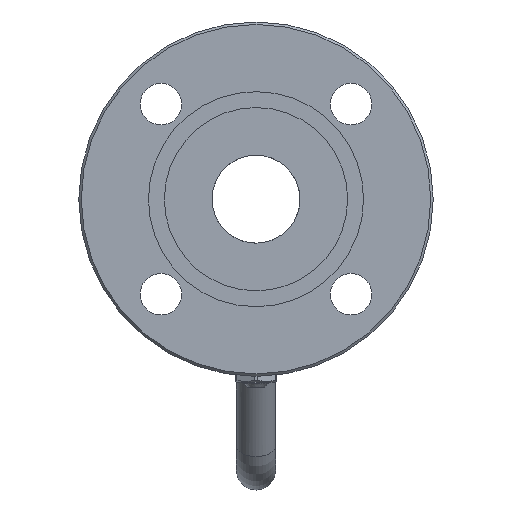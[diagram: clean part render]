
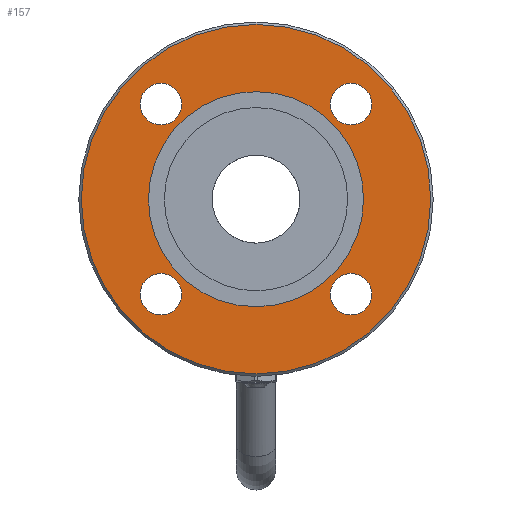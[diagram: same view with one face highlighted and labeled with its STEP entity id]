
A CAD part, left-side view. The second image highlights one B-rep face of the part: STEP entity #157.
In plain terms, the highlighted planar face has unit normal (-1, 0, 0).
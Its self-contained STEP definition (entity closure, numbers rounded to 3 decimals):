
#157=ADVANCED_FACE('',(#1347,#1349,#1351,#1353,#1355,#1357),#1359,.T.);
#1347=FACE_BOUND('',#1348,.T.);
#1348=EDGE_LOOP('',(#2261));
#1349=FACE_BOUND('',#1350,.T.);
#1350=EDGE_LOOP('',(#2262));
#1351=FACE_BOUND('',#1352,.T.);
#1352=EDGE_LOOP('',(#2263));
#1353=FACE_BOUND('',#1354,.T.);
#1354=EDGE_LOOP('',(#2264));
#1355=FACE_BOUND('',#1356,.T.);
#1356=EDGE_LOOP('',(#2265));
#1357=FACE_OUTER_BOUND('',#1358,.T.);
#1358=EDGE_LOOP('',(#2266));
#1359=PLANE('',#1360);
#1360=AXIS2_PLACEMENT_3D('',#1361,#1362,#1363);
#1361=CARTESIAN_POINT('',(-69.,0.,0.));
#1362=DIRECTION('',(-1.,0.,0.));
#1363=DIRECTION('',(0.,-1.,0.));
#2261=ORIENTED_EDGE('',*,*,#3301,.T.);
#2262=ORIENTED_EDGE('',*,*,#3302,.T.);
#2263=ORIENTED_EDGE('',*,*,#3304,.T.);
#2264=ORIENTED_EDGE('',*,*,#3306,.T.);
#2265=ORIENTED_EDGE('',*,*,#3317,.T.);
#2266=ORIENTED_EDGE('',*,*,#3318,.T.);
#3301=EDGE_CURVE('',#3644,#3644,#3646,.T.);
#3302=EDGE_CURVE('',#3647,#3647,#3648,.T.);
#3304=EDGE_CURVE('',#3650,#3650,#3651,.T.);
#3306=EDGE_CURVE('',#3653,#3653,#3654,.T.);
#3317=EDGE_CURVE('',#3672,#3672,#3673,.T.);
#3318=EDGE_CURVE('',#3674,#3674,#3675,.T.);
#3644=VERTEX_POINT('',#4739);
#3646=CIRCLE('',#4743,8.5);
#3647=VERTEX_POINT('',#4747);
#3648=CIRCLE('',#4748,8.5);
#3650=VERTEX_POINT('',#4755);
#3651=CIRCLE('',#4756,8.5);
#3653=VERTEX_POINT('',#4763);
#3654=CIRCLE('',#4764,8.5);
#3672=VERTEX_POINT('',#4810);
#3673=CIRCLE('',#4811,44.);
#3674=VERTEX_POINT('',#4815);
#3675=CIRCLE('',#4816,71.5);
#4739=CARTESIAN_POINT('',(-69.,38.891,-47.391));
#4743=AXIS2_PLACEMENT_3D('',#4744,#4745,#4746);
#4744=CARTESIAN_POINT('',(-69.,38.891,-38.891));
#4745=DIRECTION('',(1.,0.,0.));
#4746=DIRECTION('',(0.,0.,-1.));
#4747=CARTESIAN_POINT('',(-69.,47.391,38.891));
#4748=AXIS2_PLACEMENT_3D('',#4749,#4750,#4751);
#4749=CARTESIAN_POINT('',(-69.,38.891,38.891));
#4750=DIRECTION('',(1.,0.,0.));
#4751=DIRECTION('',(0.,1.,0.));
#4755=CARTESIAN_POINT('',(-69.,-38.891,47.391));
#4756=AXIS2_PLACEMENT_3D('',#4757,#4758,#4759);
#4757=CARTESIAN_POINT('',(-69.,-38.891,38.891));
#4758=DIRECTION('',(1.,0.,0.));
#4759=DIRECTION('',(0.,0.,1.));
#4763=CARTESIAN_POINT('',(-69.,-47.391,-38.891));
#4764=AXIS2_PLACEMENT_3D('',#4765,#4766,#4767);
#4765=CARTESIAN_POINT('',(-69.,-38.891,-38.891));
#4766=DIRECTION('',(1.,0.,0.));
#4767=DIRECTION('',(0.,-1.,0.));
#4810=CARTESIAN_POINT('',(-69.,44.,0.144));
#4811=AXIS2_PLACEMENT_3D('',#4812,#4813,#4814);
#4812=CARTESIAN_POINT('',(-69.,0.,0.));
#4813=DIRECTION('',(1.,0.,0.));
#4814=DIRECTION('',(0.,1.,0.003));
#4815=CARTESIAN_POINT('',(-69.,-71.5,0.));
#4816=AXIS2_PLACEMENT_3D('',#4817,#4818,#4819);
#4817=CARTESIAN_POINT('',(-69.,0.,0.));
#4818=DIRECTION('',(-1.,0.,0.));
#4819=DIRECTION('',(0.,-1.,0.));
